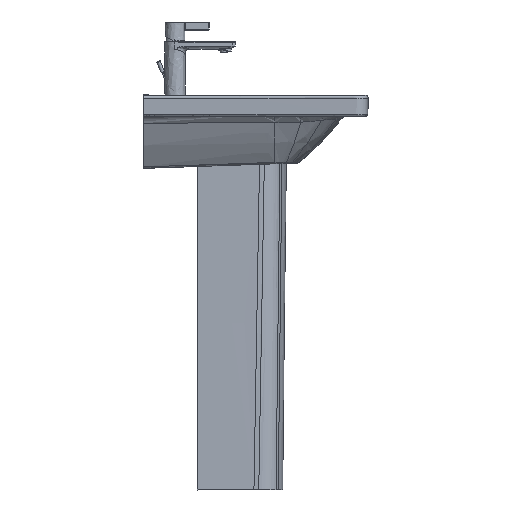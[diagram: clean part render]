
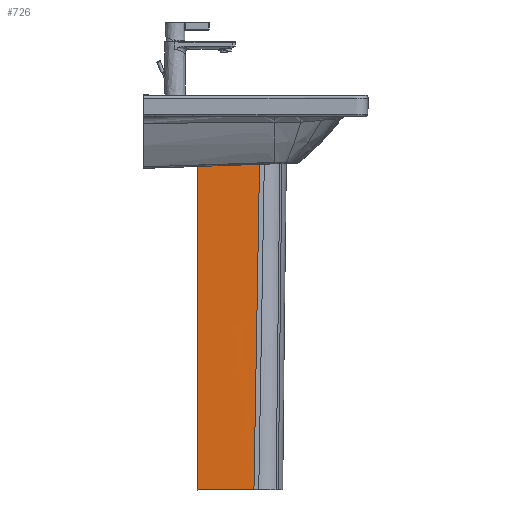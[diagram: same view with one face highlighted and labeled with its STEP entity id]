
A CAD part, left-side view. The second image highlights one B-rep face of the part: STEP entity #726.
In plain terms, the highlighted free-form (B-spline) face has degree [5, 5] with [9, 6] control points.
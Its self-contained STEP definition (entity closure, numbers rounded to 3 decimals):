
#726=ADVANCED_FACE('',(#1386),#10237,.T.);
#1386=FACE_OUTER_BOUND('',#2086,.T.);
#2086=EDGE_LOOP('',(#5250,#5251,#5252,#5253));
#5250=ORIENTED_EDGE('',*,*,#6918,.T.);
#5251=ORIENTED_EDGE('',*,*,#6920,.T.);
#5252=ORIENTED_EDGE('',*,*,#6919,.F.);
#5253=ORIENTED_EDGE('',*,*,#6902,.F.);
#6902=EDGE_CURVE('',#9572,#9558,#8529,.T.);
#6918=EDGE_CURVE('',#9572,#9579,#8545,.T.);
#6919=EDGE_CURVE('',#9558,#9559,#8546,.T.);
#6920=EDGE_CURVE('',#9579,#9559,#8547,.T.);
#8529=B_SPLINE_CURVE_WITH_KNOTS('',5,(#92518,#92519,#92520,#92521,#92522,
#92523,#92524,#92525,#92526,#92527,#92528,#92529,#92530,#92531,#92532,#92533,
#92534,#92535,#92536,#92537,#92538,#92539,#92540,#92541,#92542,#92543,#92544),
 .UNSPECIFIED.,.F.,.F.,(6,3,3,3,3,3,3,3,6),(-1014.293,-939.337,
-737.18,-534.646,-481.407,-329.77,
-152.247,-0.123,0.),.UNSPECIFIED.);
#8545=B_SPLINE_CURVE_WITH_KNOTS('',5,(#92745,#92746,#92747,#92748,#92749,
#92750),.UNSPECIFIED.,.F.,.F.,(6,6),(-44.424,76.24),
 .UNSPECIFIED.);
#8546=B_SPLINE_CURVE_WITH_KNOTS('',5,(#92751,#92752,#92753,#92754,#92755,
#92756),.UNSPECIFIED.,.F.,.F.,(6,6),(-132.778,0.),
 .UNSPECIFIED.);
#8547=B_SPLINE_CURVE_WITH_KNOTS('',5,(#92757,#92758,#92759,#92760,#92761,
#92762,#92763,#92764,#92765),.UNSPECIFIED.,.F.,.F.,(6,3,6),(-715.162,
-357.581,0.),.UNSPECIFIED.);
#9558=VERTEX_POINT('',#92243);
#9559=VERTEX_POINT('',#92244);
#9572=VERTEX_POINT('',#92257);
#9579=VERTEX_POINT('',#92264);
#10237=B_SPLINE_SURFACE_WITH_KNOTS('',5,5,((#90463,#90464,#90465,#90466,
#90467,#90468),(#90469,#90470,#90471,#90472,#90473,#90474),(#90475,#90476,
#90477,#90478,#90479,#90480),(#90481,#90482,#90483,#90484,#90485,#90486),
(#90487,#90488,#90489,#90490,#90491,#90492),(#90493,#90494,#90495,#90496,
#90497,#90498),(#90499,#90500,#90501,#90502,#90503,#90504),(#90505,#90506,
#90507,#90508,#90509,#90510),(#90511,#90512,#90513,#90514,#90515,#90516)),
 .UNSPECIFIED.,.F.,.F.,.F.,(6,3,6),(6,6),(0.,357.581,715.162),
(-86.45,76.24),.UNSPECIFIED.);
#90463=CARTESIAN_POINT('',(-161.75,230.021,-44.927));
#90464=CARTESIAN_POINT('',(-161.25,197.468,-44.927));
#90465=CARTESIAN_POINT('',(-160.75,164.916,-44.927));
#90466=CARTESIAN_POINT('',(-160.25,132.363,-44.927));
#90467=CARTESIAN_POINT('',(-159.75,99.811,-44.927));
#90468=CARTESIAN_POINT('',(-159.25,67.258,-44.927));
#90469=CARTESIAN_POINT('',(-161.,231.221,-116.427));
#90470=CARTESIAN_POINT('',(-160.833,198.667,-116.43));
#90471=CARTESIAN_POINT('',(-160.422,166.114,-116.43));
#90472=CARTESIAN_POINT('',(-159.889,133.562,-116.428));
#90473=CARTESIAN_POINT('',(-159.356,101.011,-116.426));
#90474=CARTESIAN_POINT('',(-158.945,68.458,-116.427));
#90475=CARTESIAN_POINT('',(-160.25,232.421,-187.927));
#90476=CARTESIAN_POINT('',(-160.652,199.87,-187.936));
#90477=CARTESIAN_POINT('',(-160.447,167.324,-187.939));
#90478=CARTESIAN_POINT('',(-159.893,134.779,-187.938));
#90479=CARTESIAN_POINT('',(-159.246,102.234,-187.937));
#90480=CARTESIAN_POINT('',(-158.765,69.686,-187.938));
#90481=CARTESIAN_POINT('',(-159.5,233.621,-259.427));
#90482=CARTESIAN_POINT('',(-159.305,201.076,-259.43));
#90483=CARTESIAN_POINT('',(-158.663,168.537,-259.426));
#90484=CARTESIAN_POINT('',(-157.85,136.001,-259.419));
#90485=CARTESIAN_POINT('',(-157.141,103.464,-259.412));
#90486=CARTESIAN_POINT('',(-156.814,70.923,-259.41));
#90487=CARTESIAN_POINT('',(-158.,236.021,-402.427));
#90488=CARTESIAN_POINT('',(-158.194,203.481,-402.434));
#90489=CARTESIAN_POINT('',(-157.606,170.953,-402.432));
#90490=CARTESIAN_POINT('',(-156.64,138.431,-402.426));
#90491=CARTESIAN_POINT('',(-155.701,105.908,-402.42));
#90492=CARTESIAN_POINT('',(-155.195,73.378,-402.419));
#90493=CARTESIAN_POINT('',(-156.5,238.421,-545.427));
#90494=CARTESIAN_POINT('',(-156.305,205.89,-545.43));
#90495=CARTESIAN_POINT('',(-155.51,173.371,-545.426));
#90496=CARTESIAN_POINT('',(-154.457,140.859,-545.42));
#90497=CARTESIAN_POINT('',(-153.484,108.347,-545.413));
#90498=CARTESIAN_POINT('',(-152.933,75.827,-545.41));
#90499=CARTESIAN_POINT('',(-155.75,239.621,-616.927));
#90500=CARTESIAN_POINT('',(-156.152,207.091,-616.936));
#90501=CARTESIAN_POINT('',(-155.756,174.574,-616.939));
#90502=CARTESIAN_POINT('',(-154.901,142.062,-616.939));
#90503=CARTESIAN_POINT('',(-153.924,109.551,-616.938));
#90504=CARTESIAN_POINT('',(-153.164,77.034,-616.939));
#90505=CARTESIAN_POINT('',(-155.,240.821,-688.427));
#90506=CARTESIAN_POINT('',(-154.833,208.294,-688.43));
#90507=CARTESIAN_POINT('',(-154.27,175.776,-688.43));
#90508=CARTESIAN_POINT('',(-153.496,143.262,-688.429));
#90509=CARTESIAN_POINT('',(-152.699,110.749,-688.427));
#90510=CARTESIAN_POINT('',(-152.065,78.232,-688.427));
#90511=CARTESIAN_POINT('',(-154.25,242.021,-759.927));
#90512=CARTESIAN_POINT('',(-153.75,209.503,-759.927));
#90513=CARTESIAN_POINT('',(-153.251,176.985,-759.927));
#90514=CARTESIAN_POINT('',(-152.751,144.468,-759.927));
#90515=CARTESIAN_POINT('',(-152.252,111.95,-759.927));
#90516=CARTESIAN_POINT('',(-151.752,79.432,-759.927));
#92243=CARTESIAN_POINT('',(-161.289,200.021,-44.927));
#92244=CARTESIAN_POINT('',(-159.25,67.258,-44.927));
#92257=CARTESIAN_POINT('',(-153.605,200.021,-759.927));
#92264=CARTESIAN_POINT('',(-151.752,79.432,-759.927));
#92518=CARTESIAN_POINT('',(-153.605,200.021,-759.927));
#92519=CARTESIAN_POINT('',(-153.748,200.021,-749.329));
#92520=CARTESIAN_POINT('',(-153.897,200.021,-738.731));
#92521=CARTESIAN_POINT('',(-154.049,200.021,-728.134));
#92522=CARTESIAN_POINT('',(-154.604,200.021,-688.954));
#92523=CARTESIAN_POINT('',(-155.117,200.021,-649.773));
#92524=CARTESIAN_POINT('',(-155.435,200.021,-621.105));
#92525=CARTESIAN_POINT('',(-156.013,200.021,-563.884));
#92526=CARTESIAN_POINT('',(-156.568,200.021,-506.664));
#92527=CARTESIAN_POINT('',(-156.861,200.021,-478.208));
#92528=CARTESIAN_POINT('',(-157.276,200.021,-442.044));
#92529=CARTESIAN_POINT('',(-157.681,200.021,-405.88));
#92530=CARTESIAN_POINT('',(-157.743,200.021,-400.24));
#92531=CARTESIAN_POINT('',(-158.055,200.021,-371.272));
#92532=CARTESIAN_POINT('',(-158.359,200.021,-342.305));
#92533=CARTESIAN_POINT('',(-158.597,200.021,-320.814));
#92534=CARTESIAN_POINT('',(-159.133,200.021,-274.274));
#92535=CARTESIAN_POINT('',(-159.68,200.021,-227.734));
#92536=CARTESIAN_POINT('',(-159.966,200.021,-202.722));
#92537=CARTESIAN_POINT('',(-160.446,200.021,-156.113));
#92538=CARTESIAN_POINT('',(-160.828,200.021,-109.502));
#92539=CARTESIAN_POINT('',(-160.983,200.021,-88.033));
#92540=CARTESIAN_POINT('',(-161.127,200.021,-66.506));
#92541=CARTESIAN_POINT('',(-161.288,200.021,-44.979));
#92542=CARTESIAN_POINT('',(-161.289,200.021,-44.976));
#92543=CARTESIAN_POINT('',(-161.289,200.021,-44.951));
#92544=CARTESIAN_POINT('',(-161.289,200.021,-44.927));
#92745=CARTESIAN_POINT('',(-153.605,200.021,-759.927));
#92746=CARTESIAN_POINT('',(-153.234,175.903,-759.927));
#92747=CARTESIAN_POINT('',(-152.864,151.785,-759.927));
#92748=CARTESIAN_POINT('',(-152.493,127.668,-759.927));
#92749=CARTESIAN_POINT('',(-152.123,103.55,-759.927));
#92750=CARTESIAN_POINT('',(-151.752,79.432,-759.927));
#92751=CARTESIAN_POINT('',(-161.289,200.021,-44.927));
#92752=CARTESIAN_POINT('',(-160.881,173.468,-44.927));
#92753=CARTESIAN_POINT('',(-160.473,146.916,-44.927));
#92754=CARTESIAN_POINT('',(-160.065,120.363,-44.927));
#92755=CARTESIAN_POINT('',(-159.658,93.811,-44.927));
#92756=CARTESIAN_POINT('',(-159.25,67.258,-44.927));
#92757=CARTESIAN_POINT('',(-151.752,79.432,-759.927));
#92758=CARTESIAN_POINT('',(-152.065,78.232,-688.427));
#92759=CARTESIAN_POINT('',(-153.164,77.034,-616.939));
#92760=CARTESIAN_POINT('',(-152.933,75.827,-545.41));
#92761=CARTESIAN_POINT('',(-155.195,73.378,-402.419));
#92762=CARTESIAN_POINT('',(-156.814,70.923,-259.41));
#92763=CARTESIAN_POINT('',(-158.765,69.686,-187.938));
#92764=CARTESIAN_POINT('',(-158.945,68.458,-116.427));
#92765=CARTESIAN_POINT('',(-159.25,67.258,-44.927));
